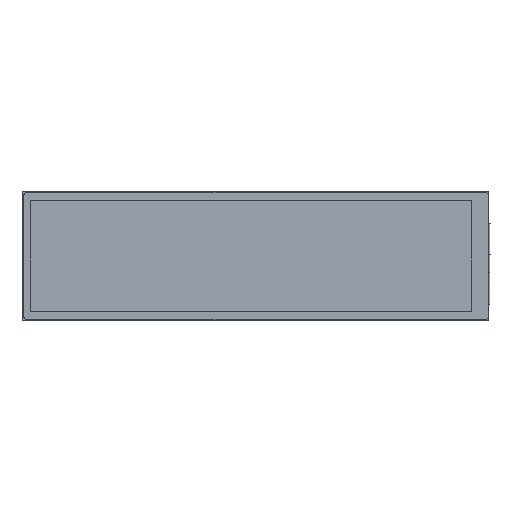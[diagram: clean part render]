
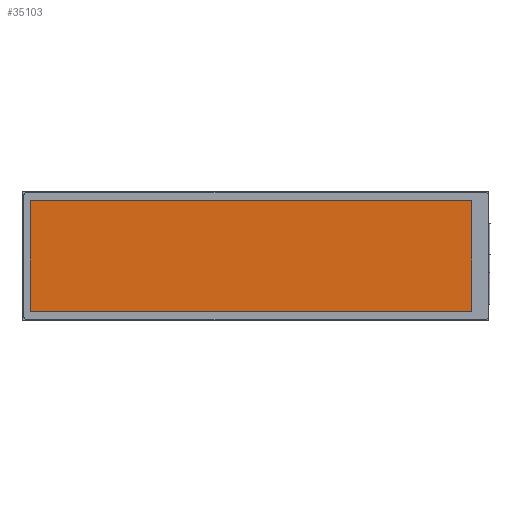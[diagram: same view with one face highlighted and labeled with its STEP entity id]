
A CAD part, top view. The second image highlights one B-rep face of the part: STEP entity #35103.
In plain terms, the highlighted planar face has unit normal (0, 0, 1).
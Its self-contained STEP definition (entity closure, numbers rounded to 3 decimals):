
#23684=B_SPLINE_CURVE_WITH_KNOTS('',1,(#404731,#404732),.UNSPECIFIED.,.F.,
 .F.,(2,2),(-547.2,-492.48),.UNSPECIFIED.);
#23685=B_SPLINE_CURVE_WITH_KNOTS('',1,(#404733,#404734),.UNSPECIFIED.,.F.,
 .F.,(2,2),(-492.48,-273.6),.UNSPECIFIED.);
#23686=B_SPLINE_CURVE_WITH_KNOTS('',1,(#404735,#404736),.UNSPECIFIED.,.F.,
 .F.,(2,2),(-273.6,-218.88),.UNSPECIFIED.);
#23687=B_SPLINE_CURVE_WITH_KNOTS('',1,(#404737,#404738),.UNSPECIFIED.,.F.,
 .F.,(2,2),(-218.88,0.),.UNSPECIFIED.);
#35103=ADVANCED_FACE('',(#45094),#154234,.T.);
#45094=FACE_OUTER_BOUND('',#55359,.T.);
#55359=EDGE_LOOP('',(#103642,#103643,#103644,#103645));
#103642=ORIENTED_EDGE('',*,*,#127841,.T.);
#103643=ORIENTED_EDGE('',*,*,#127842,.T.);
#103644=ORIENTED_EDGE('',*,*,#127843,.T.);
#103645=ORIENTED_EDGE('',*,*,#127844,.T.);
#127841=EDGE_CURVE('',#147863,#147864,#23684,.T.);
#127842=EDGE_CURVE('',#147864,#147865,#23685,.T.);
#127843=EDGE_CURVE('',#147865,#147866,#23686,.T.);
#127844=EDGE_CURVE('',#147866,#147863,#23687,.T.);
#147863=VERTEX_POINT('',#404715);
#147864=VERTEX_POINT('',#404716);
#147865=VERTEX_POINT('',#404717);
#147866=VERTEX_POINT('',#404718);
#154234=PLANE('',#163896);
#163896=AXIS2_PLACEMENT_3D('',#404709,#170267,$);
#170267=DIRECTION('',(0.,0.,1.));
#404709=CARTESIAN_POINT('',(115.45,-31.65,0.));
#404715=CARTESIAN_POINT('',(107.24,-27.36,0.));
#404716=CARTESIAN_POINT('',(107.24,27.36,0.));
#404717=CARTESIAN_POINT('',(-111.64,27.36,0.));
#404718=CARTESIAN_POINT('',(-111.64,-27.36,0.));
#404731=CARTESIAN_POINT('',(107.24,-27.36,0.));
#404732=CARTESIAN_POINT('',(107.24,27.36,0.));
#404733=CARTESIAN_POINT('',(107.24,27.36,0.));
#404734=CARTESIAN_POINT('',(-111.64,27.36,0.));
#404735=CARTESIAN_POINT('',(-111.64,27.36,0.));
#404736=CARTESIAN_POINT('',(-111.64,-27.36,0.));
#404737=CARTESIAN_POINT('',(-111.64,-27.36,0.));
#404738=CARTESIAN_POINT('',(107.24,-27.36,0.));
